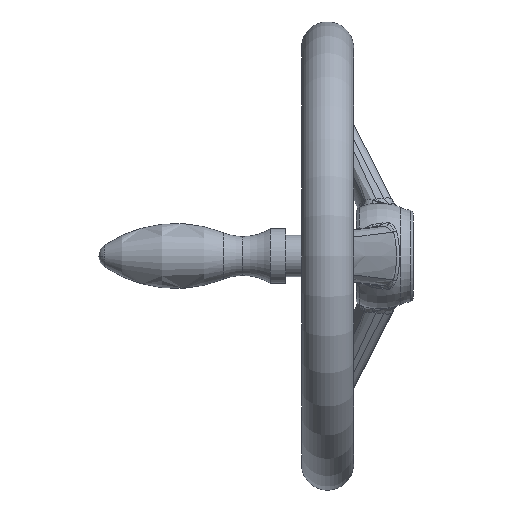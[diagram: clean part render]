
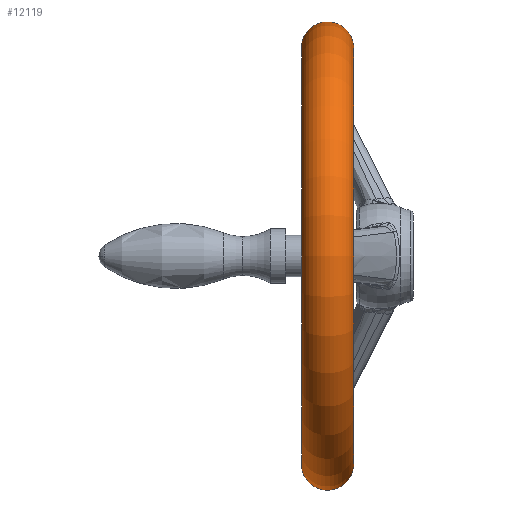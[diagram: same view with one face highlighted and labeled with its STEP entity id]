
A CAD part, left-side view. The second image highlights one B-rep face of the part: STEP entity #12119.
In plain terms, the highlighted toroidal (fillet/blend) face has major radius 79.944 mm and minor radius 10.056 mm.
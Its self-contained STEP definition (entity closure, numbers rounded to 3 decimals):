
#9916 = CARTESIAN_POINT ( 'NONE',  ( 0., 43., -81. ) ) ;
#10024 = CARTESIAN_POINT ( 'NONE',  ( 0., 33., 0. ) ) ;
#10045 = TOROIDAL_SURFACE ( 'NONE', #10073, 79.944, 10.056 ) ;
#10066 = DIRECTION ( 'NONE',  ( 0., 0., -1. ) ) ;
#10072 = FACE_OUTER_BOUND ( 'NONE', #12006, .T. ) ;
#10073 = AXIS2_PLACEMENT_3D ( 'NONE', #10024, #10077, #10066 ) ;
#10077 = DIRECTION ( 'NONE',  ( 0., -1., 0. ) ) ;
#10273 = CARTESIAN_POINT ( 'NONE',  ( 0., 43., 81. ) ) ;
#10297 = CARTESIAN_POINT ( 'NONE',  ( 0., 43., 0. ) ) ;
#10317 = CIRCLE ( 'NONE', #10342, 81. ) ;
#10340 = DIRECTION ( 'NONE',  ( 0., 0., -1. ) ) ;
#10341 = DIRECTION ( 'NONE',  ( 0., -1., 0. ) ) ;
#10342 = AXIS2_PLACEMENT_3D ( 'NONE', #10297, #10341, #10340 ) ;
#12006 = EDGE_LOOP ( 'NONE', ( #12124, #12118, #12122, #12114 ) ) ;
#12029 = VERTEX_POINT ( 'NONE', #9916 ) ;
#12114 = ORIENTED_EDGE ( 'NONE', *, *, #14368, .F. ) ;
#12118 = ORIENTED_EDGE ( 'NONE', *, *, #12219, .T. ) ;
#12119 = ADVANCED_FACE ( 'NONE', ( #10072 ), #10045, .T. ) ;
#12122 = ORIENTED_EDGE ( 'NONE', *, *, #14427, .T. ) ;
#12124 = ORIENTED_EDGE ( 'NONE', *, *, #15722, .F. ) ;
#12219 = EDGE_CURVE ( 'NONE', #12220, #12029, #10317, .T. ) ;
#12220 = VERTEX_POINT ( 'NONE', #10273 ) ;
#14341 = VERTEX_POINT ( 'NONE', #16992 ) ;
#14368 = EDGE_CURVE ( 'NONE', #14341, #15728, #16980, .T. ) ;
#14427 = EDGE_CURVE ( 'NONE', #12029, #15728, #17013, .T. ) ;
#15722 = EDGE_CURVE ( 'NONE', #12220, #14341, #18576, .T. ) ;
#15728 = VERTEX_POINT ( 'NONE', #18593 ) ;
#16970 = CARTESIAN_POINT ( 'NONE',  ( 0., 23., 0. ) ) ;
#16976 = DIRECTION ( 'NONE',  ( 0., -1., 0. ) ) ;
#16980 = CIRCLE ( 'NONE', #17033, 81. ) ;
#16992 = CARTESIAN_POINT ( 'NONE',  ( 0., 23., 81. ) ) ;
#17013 = CIRCLE ( 'NONE', #17060, 10.056 ) ;
#17032 = DIRECTION ( 'NONE',  ( 0., 0., -1. ) ) ;
#17033 = AXIS2_PLACEMENT_3D ( 'NONE', #16970, #16976, #17032 ) ;
#17057 = DIRECTION ( 'NONE',  ( 0., 0., 1. ) ) ;
#17058 = DIRECTION ( 'NONE',  ( -1., 0., 0. ) ) ;
#17059 = CARTESIAN_POINT ( 'NONE',  ( 0., 33., -79.944 ) ) ;
#17060 = AXIS2_PLACEMENT_3D ( 'NONE', #17059, #17058, #17057 ) ;
#18576 = CIRCLE ( 'NONE', #18646, 10.056 ) ;
#18593 = CARTESIAN_POINT ( 'NONE',  ( 0., 23., -81. ) ) ;
#18626 = DIRECTION ( 'NONE',  ( 0., 0., -1. ) ) ;
#18646 = AXIS2_PLACEMENT_3D ( 'NONE', #18647, #18649, #18626 ) ;
#18647 = CARTESIAN_POINT ( 'NONE',  ( 0., 33., 79.944 ) ) ;
#18649 = DIRECTION ( 'NONE',  ( 1., 0., 0. ) ) ;
